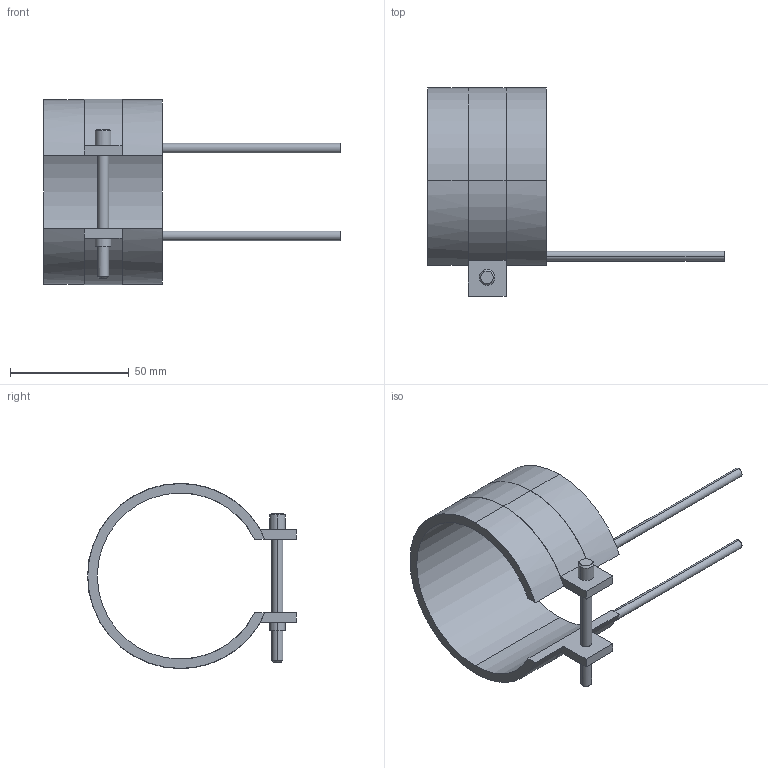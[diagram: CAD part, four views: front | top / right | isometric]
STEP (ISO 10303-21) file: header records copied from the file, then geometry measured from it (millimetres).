
FILE_DESCRIPTION(('CATIA V5 STEP Exchange'),'2;1');
FILE_NAME('C:\Users\Utente\Desktop\IO LAVORO\3D X SITO CF\X SITO\PLASTICA\RF2\14070050.stp','2021-04-01T09:45:42+00:00',('none'),('none'),'CATIA Version 5 Release 20 GA (IN-10)','CATIA V5 STEP AP203','none');
FILE_SCHEMA(('CONFIG_CONTROL_DESIGN'));
Length unit declared in the file: millimetre
Products named in the file (1): 14070050
Bounding box: 125 x 88.1 x 78.2 mm (x, y, z)
Volume: 45243.2 mm3; surface area: 25968.6 mm2
Topology: 1 solids, 1 shells, 45 faces, 116 edges, 76 vertices
Faces by surface type: cylinder 24, plane 17, cone 4
Entity records: 1412 total; most frequent: CARTESIAN_POINT 288, ORIENTED_EDGE 232, DIRECTION 195, EDGE_CURVE 116, AXIS2_PLACEMENT_3D 103, VERTEX_POINT 76, CIRCLE 61, VECTOR 52
